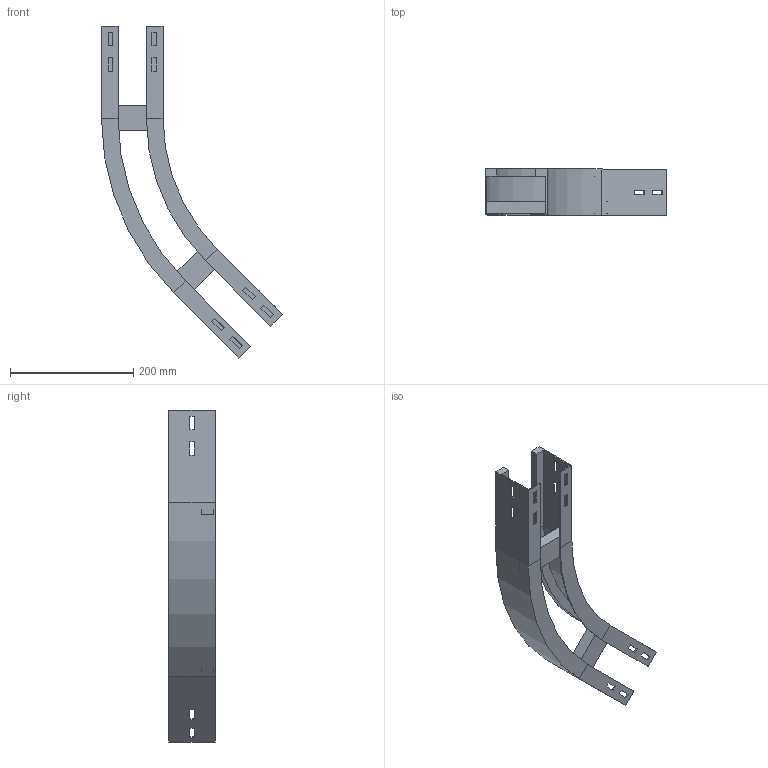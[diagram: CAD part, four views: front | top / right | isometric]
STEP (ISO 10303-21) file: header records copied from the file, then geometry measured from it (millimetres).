
FILE_DESCRIPTION (( 'STEP AP214' ), '1' );
FILE_NAME ('A2_11B3C100.step', '2025-02-21T15:15:50', ( '' ), ( '' ), 'SwSTEP 2.0', 'SolidWorks 2023', '' );
FILE_SCHEMA (( 'AUTOMOTIVE_DESIGN' ));
Length unit declared in the file: millimetre
Products named in the file (4): A2_LONGH.INTERNO 45°_H75_R300; A2_LONGH.ESTERNO 45°_H75_R300+100; TRAVERSINO_100; A2_11B3C100
Assembly tree (4 placements, depth 2):
  A2_11B3C100
    A2_LONGH.INTERNO 45°_H75_R300
    A2_LONGH.ESTERNO 45°_H75_R300+100
    TRAVERSINO_100  x2
Bounding box: 293.93 x 75 x 538.91 mm (x, y, z)
Volume: 601305.3 mm3; surface area: 296315.8 mm2
Topology: 4 solids, 4 shells, 128 faces, 328 edges, 208 vertices
Faces by surface type: plane 120, cylinder 8
Entity records: 3813 total; most frequent: CARTESIAN_POINT 645, ORIENTED_EDGE 632, DIRECTION 590, EDGE_CURVE 316, VECTOR 300, LINE 300, VERTEX_POINT 200, EDGE_LOOP 154
